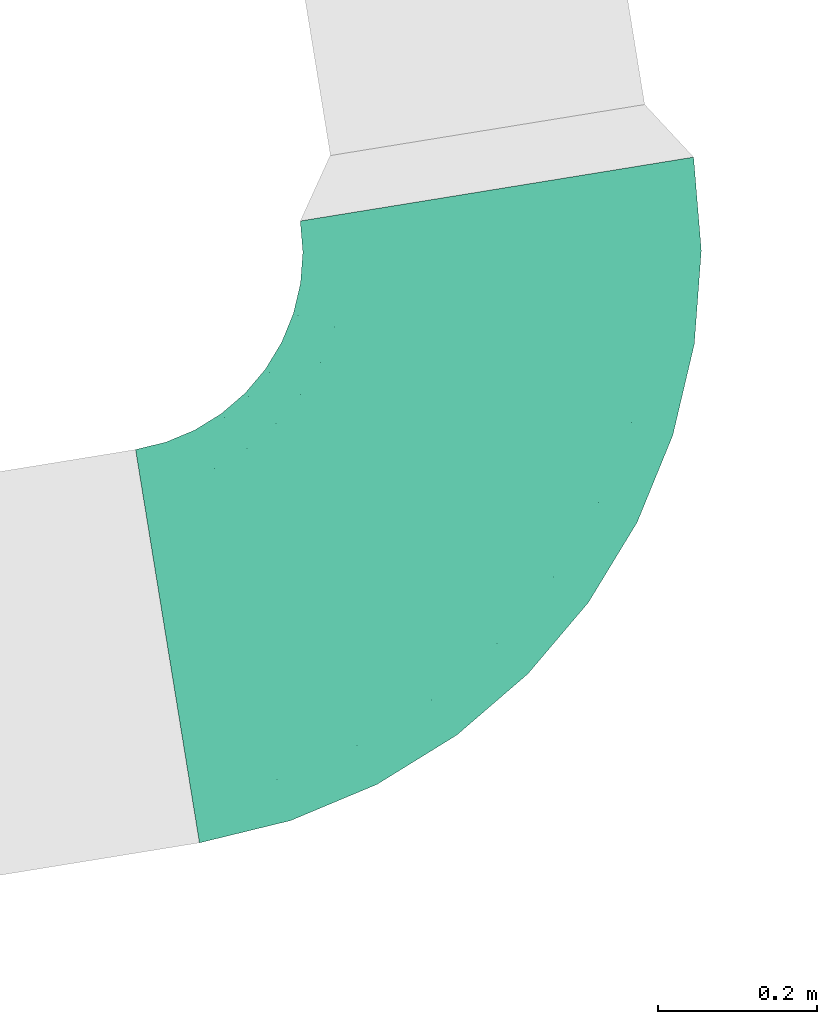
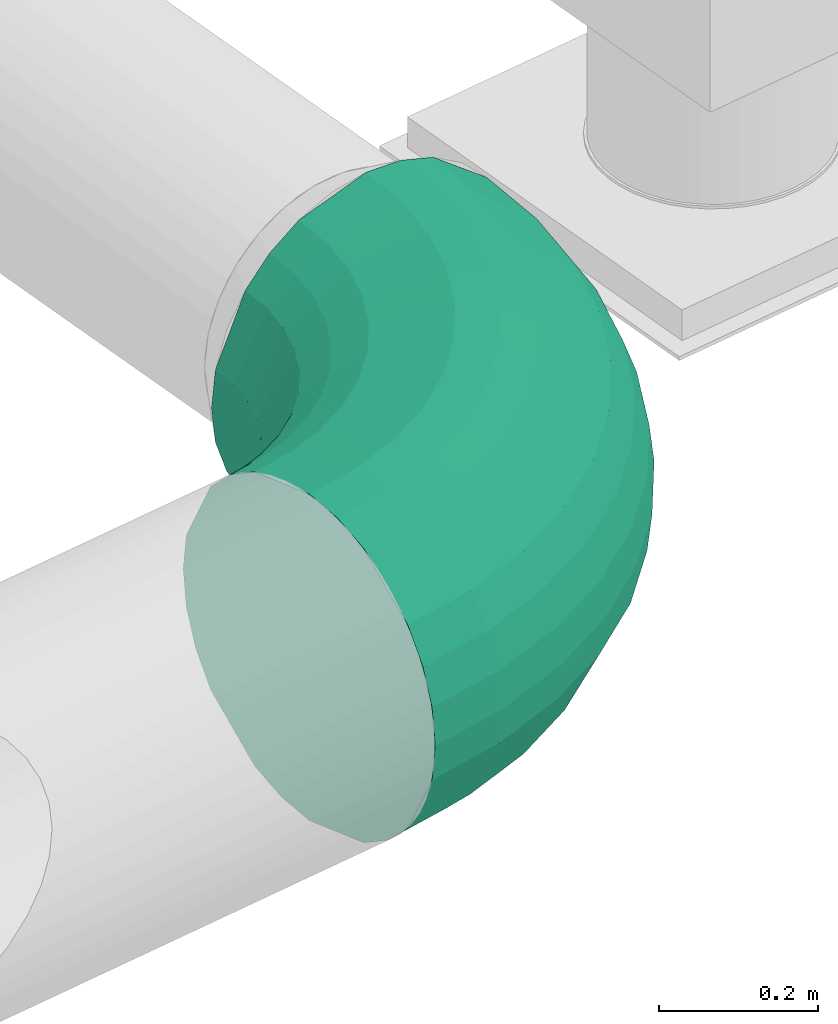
# One storey, part 28 of 39: 1 flow fitting.
"""IFC2X3 building model written with IfcOpenShell, lengths in millimetres."""

from ifc_helpers import new_model, entity, si_unit, converted_unit, derived_unit, direction, frame, origin, origin_with_axes, place, context, subcontext, project, spatial, faceted_brep, source, transform, mapped, material, type_object, element, save


model = new_model("IFC2X3")

# Units and contexts
plan_context = context("Plan", 3, precision=1e-05, world=origin_with_axes())
model_context = context("Model", 3, precision=0.01, world=origin(), true_north=direction((6.12323399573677e-17, 1.0)))
body_context = subcontext(model_context, "Body", "Model", "MODEL_VIEW")
ifc_project = project(units=[converted_unit("PLANEANGLEUNIT", "DEGREE", entity("IfcPositiveLengthMeasure", 0.0174532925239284), si_unit("PLANEANGLEUNIT", "RADIAN"), dimensions=[0, 0, 0, 0, 0, 0, 0]), si_unit("AREAUNIT", "SQUARE_METRE"), si_unit("LENGTHUNIT", "METRE", prefix="MILLI"), si_unit("MASSUNIT", "GRAM", prefix="KILO"), si_unit("POWERUNIT", "WATT"), si_unit("PRESSUREUNIT", "PASCAL", prefix="KILO"), si_unit("FORCEUNIT", "NEWTON", prefix="KILO"), si_unit("ELECTRICVOLTAGEUNIT", "VOLT"), si_unit("ELECTRICCURRENTUNIT", "AMPERE"), si_unit("THERMODYNAMICTEMPERATUREUNIT", "DEGREE_CELSIUS"), si_unit("TIMEUNIT", "SECOND"), si_unit("VOLUMEUNIT", "CUBIC_METRE"), derived_unit("LINEARVELOCITYUNIT", [(si_unit("LENGTHUNIT", "METRE"), 1), (si_unit("TIMEUNIT", "SECOND"), -1)]), derived_unit("VOLUMETRICFLOWRATEUNIT", [(si_unit("VOLUMEUNIT", "CUBIC_METRE"), 1), (si_unit("TIMEUNIT", "SECOND"), -1)]), derived_unit("THERMALTRANSMITTANCEUNIT", [(si_unit("POWERUNIT", "WATT"), 1), (si_unit("THERMODYNAMICTEMPERATUREUNIT", "KELVIN"), -1), (si_unit("AREAUNIT", "SQUARE_METRE"), -1)]), derived_unit("SOUNDPRESSUREUNIT", [(si_unit("PRESSUREUNIT", "PASCAL"), 1)])], contexts=[model_context, plan_context])

# Site, building, storey
site_placement = place(None, frame((-0.00071070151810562, 0.00438415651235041, 0.0), z_axis=(0.0, 0.0, 1.0), x_axis=(-0.160236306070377, 0.987078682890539, 0.0)))
site = spatial("IfcSite", under=ifc_project, at=site_placement, Name="Default", CompositionType="ELEMENT")
building_placement = place(site_placement, origin_with_axes())
building = spatial("IfcBuilding", under=site, at=building_placement, CompositionType="ELEMENT")
storey_placement = place(building_placement, frame((0.0, 0.0, 58999.9999999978), z_axis=(0.0, 0.0, 1.0), x_axis=(1.0, 0.0, 0.0)))
storey = spatial("IfcBuildingStorey", under=building, at=storey_placement, Name="Nivå F", CompositionType="ELEMENT", Elevation=58999.9999999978)

# Flow fitting
ifc_material = material(Name="<Unnamed>")
duct_fitting_type = type_object("IfcDuctFittingType", Name="magicirc_elbow_full_radius_1:magicirc_elbow_full_radius_001", PredefinedType="NOTDEFINED", material=ifc_material)
shared_shape = source(origin(), body_context, "Body", "Brep", [
    faceted_brep([(-382.674151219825, -240.766255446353, 0.0), (-383.654685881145, -234.575403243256, 55.6302334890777), (-500.0, -243.731978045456, 55.6302334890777), (-500.0, -250.0, 0.0), (-386.547121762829, -216.313281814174, 108.470934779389), (-500.0, -225.242216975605, 108.470934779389), (-391.206420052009, -186.89563018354, 155.872450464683), (-500.0, -195.457870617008, 155.872450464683), (-404.814174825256, -100.979647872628, 225.242216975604), (-500.0, -108.470934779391, 225.242216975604), (-413.080281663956, -48.7895032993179, 243.731978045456), (-500.0, -55.6302334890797, 243.731978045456), (-421.782767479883, 6.15582970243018, 250.0), (-500.0, 0.0, 250.0), (-438.751360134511, 113.291307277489, 225.242216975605), (-500.0, 108.470934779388, 225.242216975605), (-446.166590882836, 160.109231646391, 195.457870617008), (-500.0, 155.872450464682, 195.457870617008), (-452.359114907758, 199.207289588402, 155.872450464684), (-500.0, 195.457870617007, 155.872450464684), (-459.910849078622, 246.887062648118, 55.6302334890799), (-500.0, 243.731978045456, 55.6302334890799), (-460.891383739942, 253.077914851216, 0.0), (-500.0, 250.0, 0.0), (-459.910849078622, 246.887062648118, -55.6302334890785), (-500.0, 243.731978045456, -55.6302334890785), (-457.018413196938, 228.624941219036, -108.470934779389), (-500.0, 225.242216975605, -108.470934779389), (-452.359114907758, 199.207289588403, -155.872450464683), (-500.0, 195.457870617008, -155.872450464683), (-438.751360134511, 113.29130727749, -225.242216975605), (-500.0, 108.47093477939, -225.242216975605), (-430.485253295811, 61.1011627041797, -243.731978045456), (-500.0, 55.6302334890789, -243.731978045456), (-421.782767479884, 6.15582970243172, -250.0), (-500.0, 0.0, -250.0), (-404.814174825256, -100.979647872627, -225.242216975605), (-500.0, -108.470934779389, -225.242216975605), (-397.398944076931, -147.797572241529, -195.457870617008), (-500.0, -155.872450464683, -195.457870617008), (-391.206420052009, -186.895630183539, -155.872450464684), (-500.0, -195.457870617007, -155.872450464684), (-383.654685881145, -234.575403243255, -55.6302334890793), (-500.0, -243.731978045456, -55.6302334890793), (-268.237254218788, -213.292387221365, 0.0), (-270.174179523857, -207.331144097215, 55.6302334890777), (-275.887829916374, -189.746336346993, 108.470934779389), (-285.09169910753, -161.419739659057, 155.872450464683), (-311.972140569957, -78.6902474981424, 225.242216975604), (-328.300815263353, -28.4357542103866, 243.731978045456), (-345.491502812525, 24.4717418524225, 250.0), (-379.010865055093, 127.633731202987, 225.242216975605), (-393.658738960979, 172.715251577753, 195.457870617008), (-405.89130651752, 210.363223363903, 155.872450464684), (-420.808826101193, 256.274627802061, 55.6302334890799), (-422.745751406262, 262.235870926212, 0.0), (-420.808826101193, 256.274627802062, -55.6302334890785), (-415.095175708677, 238.689820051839, -108.470934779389), (-405.89130651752, 210.363223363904, -155.872450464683), (-379.010865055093, 127.633731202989, -225.242216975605), (-362.682190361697, 77.3792379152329, -243.731978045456), (-345.491502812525, 24.4717418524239, -250.0), (-311.972140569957, -78.690247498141, -225.242216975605), (-297.324266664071, -123.771767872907, -195.457870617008), (-285.09169910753, -161.419739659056, -155.872450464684), (-270.174179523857, -207.331144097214, -55.6302334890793), (-159.507125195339, -168.254893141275, 0.0), (-162.35274761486, -162.670044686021, 55.6302334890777), (-170.746923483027, -146.195546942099, 108.470934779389), (-184.268733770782, -119.657500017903, 155.872450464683), (-223.759976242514, -42.1515726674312, 225.242216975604), (-247.749152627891, 4.92983692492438, 243.731978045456), (-273.004750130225, 54.4967379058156, 250.0), (-322.249524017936, 151.145048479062, 225.242216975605), (-343.769361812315, 193.380108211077, 195.457870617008), (-361.740766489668, 228.650975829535, 155.872450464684), (-383.656752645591, 271.663520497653, 55.6302334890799), (-386.502375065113, 277.248368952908, 0.0), (-383.656752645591, 271.663520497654, -55.6302334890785), (-375.262576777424, 255.189022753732, -108.470934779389), (-361.740766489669, 228.650975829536, -155.872450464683), (-322.249524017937, 151.145048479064, -225.242216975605), (-298.26034763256, 104.063638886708, -243.731978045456), (-273.004750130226, 54.496737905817, -250.0), (-223.759976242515, -42.1515726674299, -225.242216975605), (-202.240138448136, -84.386632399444, -195.457870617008), (-184.268733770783, -119.657500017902, -155.872450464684), (-162.352747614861, -162.67004468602, -55.6302334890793), (-59.1610607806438, -106.76274578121, 0.0), (-62.8453116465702, -101.691809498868, 55.6302334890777), (-73.7133205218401, -86.7332785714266, 108.470934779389), (-91.2201200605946, -62.637236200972, 155.872450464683), (-142.349758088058, 7.73667318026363, 225.242216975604), (-173.408743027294, 50.4856985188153, 243.731978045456), (-206.107373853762, 95.4915028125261, 250.0), (-269.864989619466, 183.246332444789, 225.242216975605), (-297.726901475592, 221.594964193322, 195.457870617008), (-320.994627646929, 253.620241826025, 155.872450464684), (-349.369436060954, 292.674815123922, 55.6302334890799), (-353.053686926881, 297.745751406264, 0.0), (-349.369436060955, 292.674815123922, -55.6302334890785), (-338.501427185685, 277.71628419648, -108.470934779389), (-320.99462764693, 253.620241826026, -155.872450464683), (-269.864989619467, 183.24633244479, -225.242216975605), (-238.80600468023, 140.497307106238, -243.731978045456), (-206.107373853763, 95.4915028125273, -250.0), (-142.349758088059, 7.73667318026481, -225.242216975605), (-114.487846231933, -30.6119585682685, -195.457870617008), (-91.2201200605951, -62.6372362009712, -155.872450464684), (-62.8453116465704, -101.691809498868, -55.6302334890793), (30.3300858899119, -30.3300858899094, 0.0), (25.8979250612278, -25.8979250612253, 55.6302334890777), (12.8236896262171, -12.8236896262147, 108.470934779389), (-8.23702365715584, 8.23702365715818, 155.872450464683), (-69.7460758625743, 69.7460758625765, 225.242216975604), (-107.110094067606, 107.110094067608, 243.731978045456), (-146.446609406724, 146.446609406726, 250.0), (-223.147142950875, 223.147142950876, 225.242216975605), (-256.665076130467, 256.665076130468, 195.457870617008), (-284.656195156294, 284.656195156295, 155.872450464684), (-318.791143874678, 318.791143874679, 55.6302334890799), (-323.223304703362, 323.223304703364, 0.0), (-318.791143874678, 318.79114387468, -55.6302334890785), (-305.716908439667, 305.716908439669, -108.470934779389), (-284.656195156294, 284.656195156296, -155.872450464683), (-223.147142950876, 223.147142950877, -225.242216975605), (-185.783124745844, 185.783124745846, -243.731978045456), (-146.446609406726, 146.446609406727, -250.0), (-69.7460758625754, 69.7460758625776, -225.242216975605), (-36.2281426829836, 36.2281426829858, -195.457870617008), (-8.23702365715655, 8.23702365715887, -155.872450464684), (25.8979250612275, -25.897925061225, -55.6302334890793), (106.762745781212, 59.1610607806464, 0.0), (101.69180949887, 62.8453116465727, 55.6302334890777), (86.7332785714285, 73.7133205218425, 108.470934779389), (62.6372362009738, 91.2201200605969, 155.872450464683), (-7.7366731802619, 142.34975808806, 225.242216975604), (-50.4856985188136, 173.408743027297, 243.731978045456), (-95.4915028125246, 206.107373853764, 250.0), (-183.246332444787, 269.864989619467, 225.242216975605), (-221.594964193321, 297.726901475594, 195.457870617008), (-253.620241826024, 320.994627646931, 155.872450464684), (-292.674815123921, 349.369436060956, 55.6302334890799), (-297.745751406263, 353.053686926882, 0.0), (-292.674815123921, 349.369436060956, -55.6302334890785), (-277.716284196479, 338.501427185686, -108.470934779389), (-253.620241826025, 320.994627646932, -155.872450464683), (-183.246332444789, 269.864989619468, -225.242216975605), (-140.497307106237, 238.806004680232, -243.731978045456), (-95.4915028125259, 206.107373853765, -250.0), (-7.73667318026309, 142.349758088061, -225.242216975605), (30.6119585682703, 114.487846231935, -195.457870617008), (62.637236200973, 91.2201200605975, -155.872450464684), (101.69180949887, 62.8453116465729, -55.6302334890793), (168.254893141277, 159.507125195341, 0.0), (162.670044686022, 162.352747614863, 55.6302334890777), (146.195546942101, 170.74692348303, 108.470934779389), (119.657500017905, 184.268733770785, 155.872450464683), (42.1515726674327, 223.759976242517, 225.242216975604), (-4.92983692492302, 247.749152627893, 243.731978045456), (-54.4967379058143, 273.004750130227, 250.0), (-151.145048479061, 322.249524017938, 225.242216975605), (-193.380108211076, 343.769361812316, 195.457870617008), (-228.650975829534, 361.74076648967, 155.872450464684), (-271.663520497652, 383.656752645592, 55.6302334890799), (-277.248368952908, 386.502375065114, 0.0), (-271.663520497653, 383.656752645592, -55.6302334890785), (-255.189022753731, 375.262576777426, -108.470934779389), (-228.650975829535, 361.74076648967, -155.872450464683), (-151.145048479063, 322.249524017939, -225.242216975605), (-104.063638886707, 298.260347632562, -243.731978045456), (-54.4967379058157, 273.004750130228, -250.0), (42.1515726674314, 223.759976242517, -225.242216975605), (84.3866323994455, 202.240138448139, -195.457870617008), (119.657500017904, 184.268733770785, -155.872450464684), (162.670044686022, 162.352747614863, -55.6302334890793), (213.292387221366, 268.237254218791, 0.0), (207.331144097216, 270.17417952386, 55.6302334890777), (189.746336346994, 275.887829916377, 108.470934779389), (161.419739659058, 285.091699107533, 155.872450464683), (78.6902474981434, 311.972140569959, 225.242216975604), (28.4357542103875, 328.300815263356, 243.731978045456), (-24.4717418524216, 345.491502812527, 250.0), (-127.633731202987, 379.010865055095, 225.242216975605), (-172.715251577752, 393.658738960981, 195.457870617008), (-210.363223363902, 405.891306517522, 155.872450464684), (-256.274627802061, 420.808826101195, 55.6302334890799), (-262.235870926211, 422.745751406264, 0.0), (-256.274627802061, 420.808826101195, -55.6302334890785), (-238.689820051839, 415.095175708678, -108.470934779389), (-210.363223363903, 405.891306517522, -155.872450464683), (-127.633731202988, 379.010865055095, -225.242216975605), (-77.3792379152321, 362.682190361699, -243.731978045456), (-24.4717418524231, 345.491502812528, -250.0), (78.690247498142, 311.97214056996, -225.242216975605), (123.771767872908, 297.324266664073, -195.457870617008), (161.419739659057, 285.091699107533, -155.872450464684), (207.331144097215, 270.17417952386, -55.6302334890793), (240.766255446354, 382.674151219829, 0.0), (234.575403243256, 383.654685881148, 55.6302334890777), (216.313281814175, 386.547121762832, 108.470934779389), (186.895630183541, 391.206420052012, 155.872450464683), (100.979647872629, 404.814174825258, 225.242216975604), (48.7895032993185, 413.080281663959, 243.731978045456), (-6.1558297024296, 421.782767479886, 250.0), (-113.291307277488, 438.751360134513, 225.242216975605), (-160.109231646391, 446.166590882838, 195.457870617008), (-199.207289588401, 452.35911490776, 155.872450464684), (-246.887062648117, 459.910849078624, 55.6302334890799), (-253.077914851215, 460.891383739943, 0.0), (-246.887062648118, 459.910849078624, -55.6302334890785), (-228.624941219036, 457.01841319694, -108.470934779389), (-199.207289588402, 452.35911490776, -155.872450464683), (-113.29130727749, 438.751360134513, -225.242216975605), (-61.1011627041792, 430.485253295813, -243.731978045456), (-6.15582970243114, 421.782767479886, -250.0), (100.979647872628, 404.814174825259, -225.242216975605), (147.79757224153, 397.398944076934, -195.457870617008), (186.89563018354, 391.206420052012, -155.872450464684), (234.575403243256, 383.654685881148, -55.6302334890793), (250.0, 500.0, 0.0), (243.731978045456, 500.0, 55.6302334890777), (225.242216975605, 500.0, 108.470934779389), (195.457870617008, 500.0, 155.872450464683), (108.470934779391, 500.0, 225.242216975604), (55.63023348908, 500.0, 243.731978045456), (0.0, 500.0, 250.0), (-108.470934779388, 500.0, 225.242216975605), (-155.872450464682, 500.0, 195.457870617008), (-195.457870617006, 500.0, 155.872450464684), (-243.731978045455, 500.0, 55.6302334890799), (-250.0, 500.0, 0.0), (-243.731978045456, 500.0, -55.6302334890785), (-225.242216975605, 500.0, -108.470934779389), (-195.457870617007, 500.0, -155.872450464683), (-108.47093477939, 500.0, -225.242216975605), (-55.6302334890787, 500.0, -243.731978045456), (0.0, 500.0, -250.0), (108.470934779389, 500.0, -225.242216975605), (155.872450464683, 500.0, -195.457870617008), (195.457870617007, 500.0, -155.872450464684), (243.731978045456, 500.0, -55.6302334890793)], [[[0, 1, 2, 3]], [[1, 4, 5, 2]], [[4, 6, 7, 5]], [[6, 8, 9, 7]], [[8, 10, 11, 9]], [[10, 12, 13, 11]], [[12, 14, 15, 13]], [[14, 16, 17, 15]], [[16, 18, 19, 17]], [[18, 20, 21, 19]], [[20, 22, 23, 21]], [[22, 24, 25, 23]], [[24, 26, 27, 25]], [[26, 28, 29, 27]], [[28, 30, 31, 29]], [[30, 32, 33, 31]], [[32, 34, 35, 33]], [[34, 36, 37, 35]], [[36, 38, 39, 37]], [[38, 40, 41, 39]], [[40, 42, 43, 41]], [[42, 0, 3, 43]], [[44, 45, 1, 0]], [[45, 46, 4, 1]], [[46, 47, 6, 4]], [[47, 48, 8, 6]], [[48, 49, 10, 8]], [[49, 50, 12, 10]], [[50, 51, 14, 12]], [[51, 52, 16, 14]], [[52, 53, 18, 16]], [[53, 54, 20, 18]], [[54, 55, 22, 20]], [[55, 56, 24, 22]], [[56, 57, 26, 24]], [[57, 58, 28, 26]], [[58, 59, 30, 28]], [[59, 60, 32, 30]], [[60, 61, 34, 32]], [[61, 62, 36, 34]], [[62, 63, 38, 36]], [[63, 64, 40, 38]], [[64, 65, 42, 40]], [[65, 44, 0, 42]], [[66, 67, 45, 44]], [[67, 68, 46, 45]], [[68, 69, 47, 46]], [[69, 70, 48, 47]], [[70, 71, 49, 48]], [[71, 72, 50, 49]], [[72, 73, 51, 50]], [[73, 74, 52, 51]], [[74, 75, 53, 52]], [[75, 76, 54, 53]], [[76, 77, 55, 54]], [[77, 78, 56, 55]], [[78, 79, 57, 56]], [[79, 80, 58, 57]], [[80, 81, 59, 58]], [[81, 82, 60, 59]], [[82, 83, 61, 60]], [[83, 84, 62, 61]], [[84, 85, 63, 62]], [[85, 86, 64, 63]], [[86, 87, 65, 64]], [[87, 66, 44, 65]], [[88, 89, 67, 66]], [[89, 90, 68, 67]], [[90, 91, 69, 68]], [[91, 92, 70, 69]], [[92, 93, 71, 70]], [[93, 94, 72, 71]], [[94, 95, 73, 72]], [[95, 96, 74, 73]], [[96, 97, 75, 74]], [[97, 98, 76, 75]], [[98, 99, 77, 76]], [[99, 100, 78, 77]], [[100, 101, 79, 78]], [[101, 102, 80, 79]], [[102, 103, 81, 80]], [[103, 104, 82, 81]], [[104, 105, 83, 82]], [[105, 106, 84, 83]], [[106, 107, 85, 84]], [[107, 108, 86, 85]], [[108, 109, 87, 86]], [[109, 88, 66, 87]], [[110, 111, 89, 88]], [[111, 112, 90, 89]], [[112, 113, 91, 90]], [[113, 114, 92, 91]], [[114, 115, 93, 92]], [[115, 116, 94, 93]], [[116, 117, 95, 94]], [[117, 118, 96, 95]], [[118, 119, 97, 96]], [[119, 120, 98, 97]], [[120, 121, 99, 98]], [[121, 122, 100, 99]], [[122, 123, 101, 100]], [[123, 124, 102, 101]], [[124, 125, 103, 102]], [[125, 126, 104, 103]], [[126, 127, 105, 104]], [[127, 128, 106, 105]], [[128, 129, 107, 106]], [[129, 130, 108, 107]], [[130, 131, 109, 108]], [[131, 110, 88, 109]], [[132, 133, 111, 110]], [[133, 134, 112, 111]], [[134, 135, 113, 112]], [[135, 136, 114, 113]], [[136, 137, 115, 114]], [[137, 138, 116, 115]], [[138, 139, 117, 116]], [[139, 140, 118, 117]], [[140, 141, 119, 118]], [[141, 142, 120, 119]], [[142, 143, 121, 120]], [[143, 144, 122, 121]], [[144, 145, 123, 122]], [[145, 146, 124, 123]], [[146, 147, 125, 124]], [[147, 148, 126, 125]], [[148, 149, 127, 126]], [[149, 150, 128, 127]], [[150, 151, 129, 128]], [[151, 152, 130, 129]], [[152, 153, 131, 130]], [[153, 132, 110, 131]], [[154, 155, 133, 132]], [[155, 156, 134, 133]], [[156, 157, 135, 134]], [[157, 158, 136, 135]], [[158, 159, 137, 136]], [[159, 160, 138, 137]], [[160, 161, 139, 138]], [[161, 162, 140, 139]], [[162, 163, 141, 140]], [[163, 164, 142, 141]], [[164, 165, 143, 142]], [[165, 166, 144, 143]], [[166, 167, 145, 144]], [[167, 168, 146, 145]], [[168, 169, 147, 146]], [[169, 170, 148, 147]], [[170, 171, 149, 148]], [[171, 172, 150, 149]], [[172, 173, 151, 150]], [[173, 174, 152, 151]], [[174, 175, 153, 152]], [[175, 154, 132, 153]], [[176, 177, 155, 154]], [[177, 178, 156, 155]], [[178, 179, 157, 156]], [[179, 180, 158, 157]], [[180, 181, 159, 158]], [[181, 182, 160, 159]], [[182, 183, 161, 160]], [[183, 184, 162, 161]], [[184, 185, 163, 162]], [[185, 186, 164, 163]], [[186, 187, 165, 164]], [[187, 188, 166, 165]], [[188, 189, 167, 166]], [[189, 190, 168, 167]], [[190, 191, 169, 168]], [[191, 192, 170, 169]], [[192, 193, 171, 170]], [[193, 194, 172, 171]], [[194, 195, 173, 172]], [[195, 196, 174, 173]], [[196, 197, 175, 174]], [[197, 176, 154, 175]], [[198, 199, 177, 176]], [[199, 200, 178, 177]], [[200, 201, 179, 178]], [[201, 202, 180, 179]], [[202, 203, 181, 180]], [[203, 204, 182, 181]], [[204, 205, 183, 182]], [[205, 206, 184, 183]], [[206, 207, 185, 184]], [[207, 208, 186, 185]], [[208, 209, 187, 186]], [[209, 210, 188, 187]], [[210, 211, 189, 188]], [[211, 212, 190, 189]], [[212, 213, 191, 190]], [[213, 214, 192, 191]], [[214, 215, 193, 192]], [[215, 216, 194, 193]], [[216, 217, 195, 194]], [[217, 218, 196, 195]], [[218, 219, 197, 196]], [[219, 198, 176, 197]], [[220, 221, 199, 198]], [[221, 222, 200, 199]], [[222, 223, 201, 200]], [[223, 224, 202, 201]], [[224, 225, 203, 202]], [[225, 226, 204, 203]], [[226, 227, 205, 204]], [[227, 228, 206, 205]], [[228, 229, 207, 206]], [[229, 230, 208, 207]], [[230, 231, 209, 208]], [[231, 232, 210, 209]], [[232, 233, 211, 210]], [[233, 234, 212, 211]], [[234, 235, 213, 212]], [[235, 236, 214, 213]], [[236, 237, 215, 214]], [[237, 238, 216, 215]], [[238, 239, 217, 216]], [[239, 240, 218, 217]], [[240, 241, 219, 218]], [[241, 220, 198, 219]], [[3, 2, 5, 7, 9, 11, 13, 15, 17, 19, 21, 23, 25, 27, 29, 31, 33, 35, 37, 39, 41, 43]], [[241, 240, 239, 238, 237, 236, 235, 234, 233, 232, 231, 230, 229, 228, 227, 226, 225, 224, 223, 222, 221, 220]]]),
])
flow_fitting_placement = place(storey_placement, frame((773306.186969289, -505130.008615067, 3130.0), z_axis=(0.0, 0.0, 1.0), x_axis=(0.0, -1.0, 0.0)))
element("IfcFlowFitting", 1, at=flow_fitting_placement, inside=storey, type_object=duct_fitting_type, material=ifc_material, Name="magicirc_elbow_full_radius_1:magicirc_elbow_full_radius_001", ObjectType="magicirc_elbow_full_radius_1:magicirc_elbow_full_radius_001", context=body_context, shape_type="MappedRepresentation", body=[
    mapped(shared_shape, transform((0.0, 0.0, 0.0), scale=1.0)),
])

save(model, "model.ifc")
